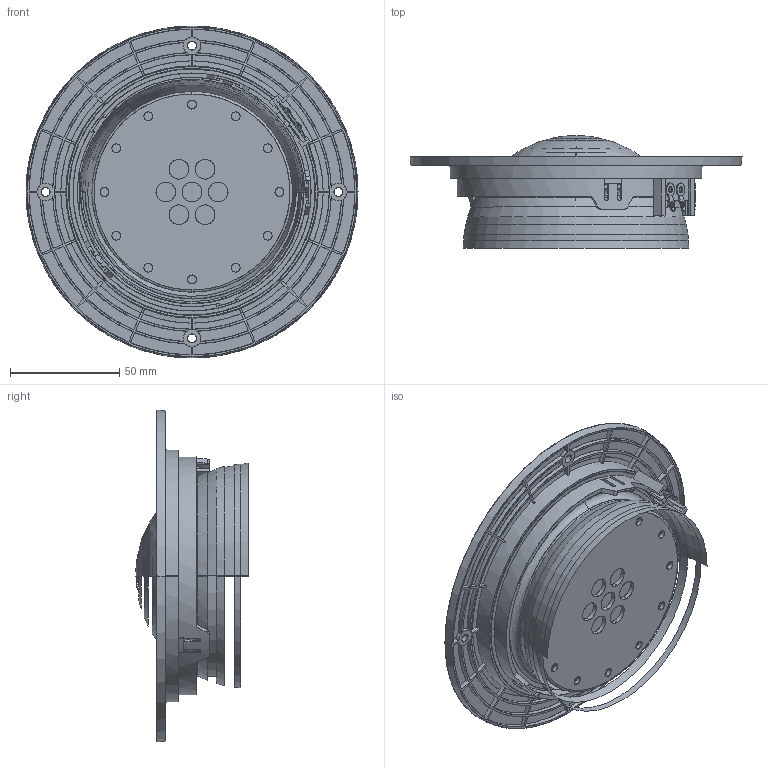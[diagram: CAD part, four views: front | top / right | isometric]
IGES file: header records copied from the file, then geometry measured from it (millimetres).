
Start section: SolidWorks IGES file using analytic representation for surfaces
Global section: file name: W:\TT\WEB 3D enheder\WEB D7608_920010\D7608-920010.IGS; native system: SolidWorks 2019; preprocessor: SolidWorks 2019; author: mhn; date: 201022.074231; units: millimetre
Bounding box: 152 x 51.7 x 152 mm (x, y, z)
Surface area: 82829.1 mm2 (no closed solid volume)
Topology: 0 solids, 0 shells, 829 faces, 9185 edges, 9176 vertices
Faces by surface type: bspline 487, revolution 342
